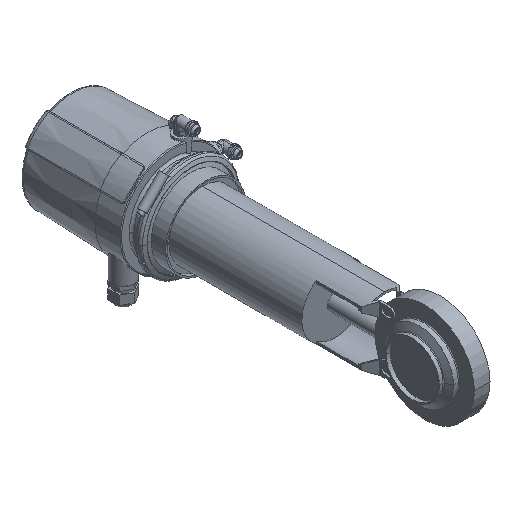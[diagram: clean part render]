
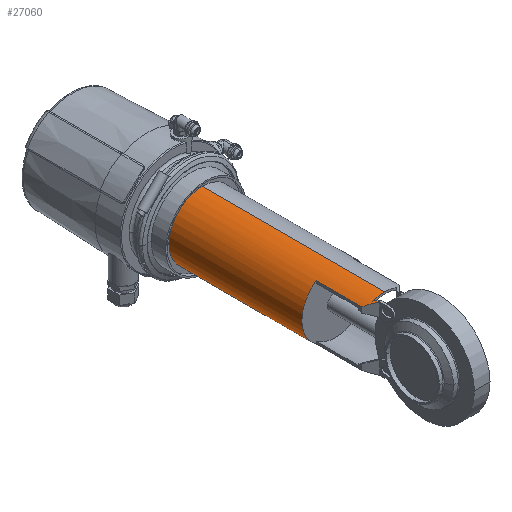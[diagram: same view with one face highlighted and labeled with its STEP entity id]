
A CAD part, isometric view. The second image highlights one B-rep face of the part: STEP entity #27060.
In plain terms, the highlighted cylindrical face has radius 42.5 mm (diameter 85 mm), a partial arc.
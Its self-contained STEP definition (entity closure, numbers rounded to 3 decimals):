
#18340=CARTESIAN_POINT('',(-122.126,169.806,
-35.075));
#18350=VERTEX_POINT('',#18340);
#18380=CARTESIAN_POINT('',(-98.126,169.806,
0.));
#18390=DIRECTION('',(0.,-1.,0.));
#18400=DIRECTION('',(0.,0.,1.));
#18410=AXIS2_PLACEMENT_3D('',#18380,#18390,#18400);
#18420=CIRCLE('',#18410,42.5);
#18430=CARTESIAN_POINT('',(-122.126,169.806,
35.075));
#18440=VERTEX_POINT('',#18430);
#18450=EDGE_CURVE('',#18440,#18350,#18420,.T.);
#20580=CARTESIAN_POINT('',(-98.126,106.406,
0.));
#20590=DIRECTION('',(0.,-1.,0.));
#20600=DIRECTION('',(0.,0.,-1.));
#20610=AXIS2_PLACEMENT_3D('',#20580,#20590,#20600);
#20620=CIRCLE('',#20610,42.5);
#20630=CARTESIAN_POINT('',(-98.126,106.406,-42.5));
#20640=VERTEX_POINT('',#20630);
#20670=CARTESIAN_POINT('',(-113.184,106.406,
-39.743));
#20680=VERTEX_POINT('',#20670);
#20690=EDGE_CURVE('',#20680,#20640,#20620,.T.);
#20950=CARTESIAN_POINT('',(-98.126,91.348,
0.));
#20960=DIRECTION('',(0.707,0.707,0.));
#20970=DIRECTION('',(0.707,-0.707,0.));
#20980=AXIS2_PLACEMENT_3D('',#20950,#20960,#20970);
#20990=ELLIPSE('',#20980,60.104,42.5);
#21000=CARTESIAN_POINT('',(-108.126,101.348,
-41.307));
#21010=VERTEX_POINT('',#21000);
#21020=EDGE_CURVE('',#21010,#20680,#20990,.T.);
#21200=CARTESIAN_POINT('',(-122.126,366.667,
-35.075));
#21210=DIRECTION('',(0.,-1.,0.));
#21220=VECTOR('',#21210,1.);
#21230=LINE('',#21200,#21220);
#21240=CARTESIAN_POINT('',(-122.126,111.812,
-35.075));
#21250=VERTEX_POINT('',#21240);
#21260=EDGE_CURVE('',#18350,#21250,#21230,.T.);
#21680=CARTESIAN_POINT('',(-110.626,93.857,
-40.62));
#21690=VERTEX_POINT('',#21680);
#21720=CARTESIAN_POINT('',(-110.626,366.667,
-40.62));
#21730=DIRECTION('',(0.,-1.,0.));
#21740=VECTOR('',#21730,1.);
#21750=LINE('',#21720,#21740);
#21760=CARTESIAN_POINT('',(-110.626,100.312,
-40.62));
#21770=VERTEX_POINT('',#21760);
#21780=EDGE_CURVE('',#21770,#21690,#21750,.T.);
#23360=CARTESIAN_POINT('',(-110.626,103.848,
40.62));
#23370=VERTEX_POINT('',#23360);
#23400=CARTESIAN_POINT('',(-98.126,91.348,
0.));
#23410=DIRECTION('',(0.707,0.707,0.));
#23420=DIRECTION('',(-0.707,0.707,0.));
#23430=AXIS2_PLACEMENT_3D('',#23400,#23410,#23420);
#23440=ELLIPSE('',#23430,60.104,42.5);
#23450=CARTESIAN_POINT('',(-113.184,106.406,
39.743));
#23460=VERTEX_POINT('',#23450);
#23470=EDGE_CURVE('',#23460,#23370,#23440,.T.);
#24800=CARTESIAN_POINT('',(-122.126,111.812,
35.075));
#24810=VERTEX_POINT('',#24800);
#25130=CARTESIAN_POINT('',(-122.126,366.667,
35.075));
#25140=DIRECTION('',(0.,-1.,0.));
#25150=VECTOR('',#25140,1.);
#25160=LINE('',#25130,#25150);
#25170=EDGE_CURVE('',#18440,#24810,#25160,.T.);
#26050=CARTESIAN_POINT('',(-98.126,106.406,
0.));
#26060=DIRECTION('',(0.,-1.,0.));
#26070=DIRECTION('',(0.,0.,1.));
#26080=AXIS2_PLACEMENT_3D('',#26050,#26060,#26070);
#26090=CIRCLE('',#26080,42.5);
#26100=CARTESIAN_POINT('',(-98.126,106.406,42.5));
#26110=VERTEX_POINT('',#26100);
#26120=EDGE_CURVE('',#26110,#23460,#26090,.T.);
#26220=CARTESIAN_POINT('',(-98.126,169.806,
0.));
#26230=DIRECTION('',(0.,-1.,0.));
#26240=DIRECTION('',(0.,0.,-1.));
#26250=AXIS2_PLACEMENT_3D('',#26220,#26230,#26240);
#26260=CYLINDRICAL_SURFACE('',#26250,42.5);
#26270=CARTESIAN_POINT('',(-98.126,169.806,42.5));
#26280=DIRECTION('',(0.,-1.,0.));
#26290=VECTOR('',#26280,1.);
#26300=LINE('',#26270,#26290);
#26310=CARTESIAN_POINT('',(-98.126,339.806,42.5));
#26320=VERTEX_POINT('',#26310);
#26330=EDGE_CURVE('',#26320,#26110,#26300,.T.);
#26340=ORIENTED_EDGE('',*,*,#26330,.F.);
#26350=ORIENTED_EDGE('',*,*,#26120,.F.);
#26360=ORIENTED_EDGE('',*,*,#23470,.F.);
#26370=CARTESIAN_POINT('',(-110.626,366.667,
40.62));
#26380=DIRECTION('',(0.,-1.,0.));
#26390=VECTOR('',#26380,1.);
#26400=LINE('',#26370,#26390);
#26410=CARTESIAN_POINT('',(-110.626,100.312,
40.62));
#26420=VERTEX_POINT('',#26410);
#26430=EDGE_CURVE('',#23370,#26420,#26400,.T.);
#26440=ORIENTED_EDGE('',*,*,#26430,.F.);
#26450=CARTESIAN_POINT('',(-98.126,87.812,
0.));
#26460=DIRECTION('',(-0.707,-0.707,0.));
#26470=DIRECTION('',(0.707,-0.707,0.));
#26480=AXIS2_PLACEMENT_3D('',#26450,#26460,#26470);
#26490=ELLIPSE('',#26480,60.104,42.5);
#26500=EDGE_CURVE('',#26420,#24810,#26490,.T.);
#26510=ORIENTED_EDGE('',*,*,#26500,.F.);
#26520=ORIENTED_EDGE('',*,*,#25170,.T.);
#26530=ORIENTED_EDGE('',*,*,#18450,.F.);
#26540=ORIENTED_EDGE('',*,*,#21260,.F.);
#26550=CARTESIAN_POINT('',(-98.126,87.812,
0.));
#26560=DIRECTION('',(0.707,0.707,0.));
#26570=DIRECTION('',(0.707,-0.707,0.));
#26580=AXIS2_PLACEMENT_3D('',#26550,#26560,#26570);
#26590=ELLIPSE('',#26580,60.104,42.5);
#26600=EDGE_CURVE('',#21770,#21250,#26590,.T.);
#26610=ORIENTED_EDGE('',*,*,#26600,.T.);
#26620=ORIENTED_EDGE('',*,*,#21780,.F.);
#26630=CARTESIAN_POINT('',(-98.126,-262.662,
0.));
#26640=DIRECTION('',(0.,-0.113,-0.994));
#26650=DIRECTION('',(0.,0.994,-0.113));
#26660=AXIS2_PLACEMENT_3D('',#26630,#26640,#26650);
#26670=ELLIPSE('',#26660,375.431,42.5);
#26680=CARTESIAN_POINT('',(-108.774,98.46,
-41.145));
#26690=VERTEX_POINT('',#26680);
#26700=EDGE_CURVE('',#21690,#26690,#26670,.T.);
#26710=ORIENTED_EDGE('',*,*,#26700,.F.);
#26720=CARTESIAN_POINT('',(-98.126,87.812,
0.));
#26730=DIRECTION('',(-0.707,-0.707,0.));
#26740=DIRECTION('',(-0.707,0.707,0.));
#26750=AXIS2_PLACEMENT_3D('',#26720,#26730,#26740);
#26760=ELLIPSE('',#26750,60.104,42.5);
#26770=CARTESIAN_POINT('',(-108.126,97.812,
-41.307));
#26780=VERTEX_POINT('',#26770);
#26790=EDGE_CURVE('',#26690,#26780,#26760,.T.);
#26800=ORIENTED_EDGE('',*,*,#26790,.F.);
#26810=CARTESIAN_POINT('',(-108.126,366.667,
-41.307));
#26820=DIRECTION('',(0.,-1.,0.));
#26830=VECTOR('',#26820,1.);
#26840=LINE('',#26810,#26830);
#26850=EDGE_CURVE('',#21010,#26780,#26840,.T.);
#26860=ORIENTED_EDGE('',*,*,#26850,.T.);
#26870=ORIENTED_EDGE('',*,*,#21020,.F.);
#26880=ORIENTED_EDGE('',*,*,#20690,.F.);
#26890=CARTESIAN_POINT('',(-98.126,169.806,-42.5));
#26900=DIRECTION('',(0.,-1.,0.));
#26910=VECTOR('',#26900,1.);
#26920=LINE('',#26890,#26910);
#26930=CARTESIAN_POINT('',(-98.126,339.806,-42.5));
#26940=VERTEX_POINT('',#26930);
#26950=EDGE_CURVE('',#26940,#20640,#26920,.T.);
#26960=ORIENTED_EDGE('',*,*,#26950,.T.);
#26970=CARTESIAN_POINT('',(-98.126,339.806,
0.));
#26980=DIRECTION('',(0.,-1.,0.));
#26990=DIRECTION('',(0.,0.,-1.));
#27000=AXIS2_PLACEMENT_3D('',#26970,#26980,#26990);
#27010=CIRCLE('',#27000,42.5);
#27020=EDGE_CURVE('',#26320,#26940,#27010,.T.);
#27030=ORIENTED_EDGE('',*,*,#27020,.T.);
#27040=EDGE_LOOP('',(#27030,#26960,#26880,#26870,#26860,#26800,#26710,
#26620,#26610,#26540,#26530,#26520,#26510,#26440,#26360,#26350,#26340));
#27050=FACE_OUTER_BOUND('',#27040,.T.);
#27060=ADVANCED_FACE('',(#27050),#26260,.T.);
